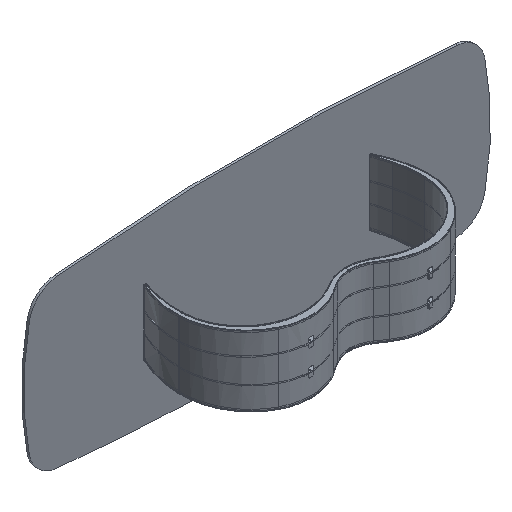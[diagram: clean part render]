
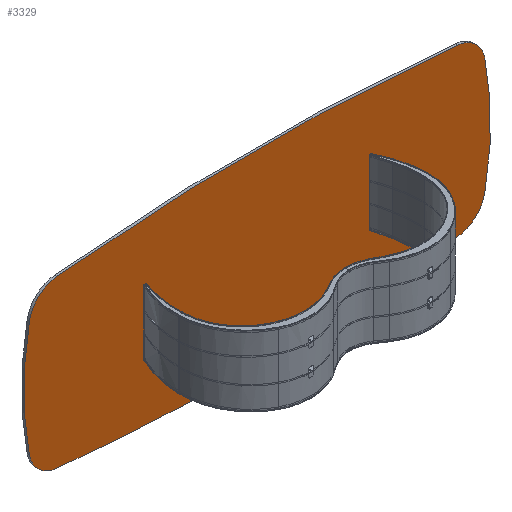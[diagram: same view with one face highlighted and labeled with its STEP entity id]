
A CAD part, isometric view. The second image highlights one B-rep face of the part: STEP entity #3329.
In plain terms, the highlighted planar face has unit normal (0, -1, 0).
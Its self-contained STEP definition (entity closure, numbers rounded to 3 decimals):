
#313 = VERTEX_POINT ( 'NONE', #14826 ) ;
#387 = ORIENTED_EDGE ( 'NONE', *, *, #23057, .F. ) ;
#782 = DIRECTION ( 'NONE',  ( 0., 0., 1. ) ) ;
#1771 = EDGE_CURVE ( 'NONE', #19056, #5844, #4198, .T. ) ;
#1838 = EDGE_CURVE ( 'NONE', #7235, #5844, #28350, .T. ) ;
#2232 = ORIENTED_EDGE ( 'NONE', *, *, #10682, .F. ) ;
#2295 = DIRECTION ( 'NONE',  ( 0., -1., 0. ) ) ;
#2339 = EDGE_CURVE ( 'NONE', #19484, #313, #16255, .T. ) ;
#2483 = CARTESIAN_POINT ( 'NONE',  ( -1287.344, 0., -533.533 ) ) ;
#2849 = CARTESIAN_POINT ( 'NONE',  ( 1462.835, 0., 373.961 ) ) ;
#3329 = ADVANCED_FACE ( 'NONE', ( #30664 ), #15064, .F. ) ;
#3707 = AXIS2_PLACEMENT_3D ( 'NONE', #28827, #2295, #10179 ) ;
#4198 = CIRCLE ( 'NONE', #3707, 200. ) ;
#5390 = DIRECTION ( 'NONE',  ( 0., 1., 0. ) ) ;
#5498 = DIRECTION ( 'NONE',  ( 0., 0., 1. ) ) ;
#5844 = VERTEX_POINT ( 'NONE', #11609 ) ;
#6213 = EDGE_LOOP ( 'NONE', ( #6529, #6349, #387, #15425, #9211, #2232, #17426, #9282, #28248 ) ) ;
#6349 = ORIENTED_EDGE ( 'NONE', *, *, #29351, .T. ) ;
#6406 = AXIS2_PLACEMENT_3D ( 'NONE', #19845, #32863, #28226 ) ;
#6529 = ORIENTED_EDGE ( 'NONE', *, *, #1838, .F. ) ;
#7184 = DIRECTION ( 'NONE',  ( 0., 0., 1. ) ) ;
#7235 = VERTEX_POINT ( 'NONE', #10040 ) ;
#7457 = DIRECTION ( 'NONE',  ( 0., 0., 1. ) ) ;
#7714 = EDGE_CURVE ( 'NONE', #28138, #11629, #24568, .T. ) ;
#8010 = EDGE_CURVE ( 'NONE', #19056, #313, #14182, .T. ) ;
#8403 = CARTESIAN_POINT ( 'NONE',  ( -400., 0., 0. ) ) ;
#8831 = DIRECTION ( 'NONE',  ( 0., -1., 0. ) ) ;
#9211 = ORIENTED_EDGE ( 'NONE', *, *, #22652, .F. ) ;
#9282 = ORIENTED_EDGE ( 'NONE', *, *, #8010, .F. ) ;
#9619 = DIRECTION ( 'NONE',  ( 0., -1., 0. ) ) ;
#9761 = CARTESIAN_POINT ( 'NONE',  ( -200., 0., 5950. ) ) ;
#10040 = CARTESIAN_POINT ( 'NONE',  ( -1287.344, 0., 533.533 ) ) ;
#10179 = DIRECTION ( 'NONE',  ( 0., 0., 1. ) ) ;
#10682 = EDGE_CURVE ( 'NONE', #19484, #13189, #31280, .T. ) ;
#11609 = CARTESIAN_POINT ( 'NONE',  ( 1287.344, 0., 533.533 ) ) ;
#11629 = VERTEX_POINT ( 'NONE', #2483 ) ;
#12293 = CIRCLE ( 'NONE', #28149, 1900. ) ;
#12639 = CARTESIAN_POINT ( 'NONE',  ( 0., 0., 11900. ) ) ;
#12672 = CARTESIAN_POINT ( 'NONE',  ( 1287.344, 0., -533.533 ) ) ;
#13189 = VERTEX_POINT ( 'NONE', #17314 ) ;
#13577 = AXIS2_PLACEMENT_3D ( 'NONE', #13581, #18551, #29341 ) ;
#13581 = CARTESIAN_POINT ( 'NONE',  ( 0., 0., -11900. ) ) ;
#13901 = CARTESIAN_POINT ( 'NONE',  ( -1462.835, 0., -373.961 ) ) ;
#14182 = CIRCLE ( 'NONE', #30600, 1900. ) ;
#14826 = CARTESIAN_POINT ( 'NONE',  ( 1462.835, 0., -373.961 ) ) ;
#15064 = PLANE ( 'NONE',  #25588 ) ;
#15425 = ORIENTED_EDGE ( 'NONE', *, *, #7714, .T. ) ;
#15652 = DIRECTION ( 'NONE',  ( 0., 0., 1. ) ) ;
#16255 = CIRCLE ( 'NONE', #31580, 200. ) ;
#16257 = CIRCLE ( 'NONE', #6406, 200. ) ;
#16919 = AXIS2_PLACEMENT_3D ( 'NONE', #32561, #9619, #33075 ) ;
#17314 = CARTESIAN_POINT ( 'NONE',  ( 0., 0., -600. ) ) ;
#17426 = ORIENTED_EDGE ( 'NONE', *, *, #2339, .T. ) ;
#18220 = CARTESIAN_POINT ( 'NONE',  ( 0., 0., 11900. ) ) ;
#18277 = DIRECTION ( 'NONE',  ( 0., 0., 1. ) ) ;
#18551 = DIRECTION ( 'NONE',  ( 0., 1., 0. ) ) ;
#19056 = VERTEX_POINT ( 'NONE', #2849 ) ;
#19484 = VERTEX_POINT ( 'NONE', #12672 ) ;
#19845 = CARTESIAN_POINT ( 'NONE',  ( -1266.747, 0., 334.597 ) ) ;
#20449 = CARTESIAN_POINT ( 'NONE',  ( -1462.835, 0., 373.961 ) ) ;
#20875 = AXIS2_PLACEMENT_3D ( 'NONE', #18220, #23865, #15652 ) ;
#21573 = AXIS2_PLACEMENT_3D ( 'NONE', #12639, #25823, #18277 ) ;
#22652 = EDGE_CURVE ( 'NONE', #13189, #11629, #24874, .T. ) ;
#22939 = DIRECTION ( 'NONE',  ( 0., 1., 0. ) ) ;
#23057 = EDGE_CURVE ( 'NONE', #28138, #30197, #12293, .T. ) ;
#23865 = DIRECTION ( 'NONE',  ( 0., 1., 0. ) ) ;
#24157 = DIRECTION ( 'NONE',  ( 0., 1., 0. ) ) ;
#24568 = CIRCLE ( 'NONE', #16919, 200. ) ;
#24874 = CIRCLE ( 'NONE', #21573, 12500. ) ;
#25588 = AXIS2_PLACEMENT_3D ( 'NONE', #9761, #22939, #7184 ) ;
#25823 = DIRECTION ( 'NONE',  ( 0., 1., 0. ) ) ;
#28138 = VERTEX_POINT ( 'NONE', #13901 ) ;
#28149 = AXIS2_PLACEMENT_3D ( 'NONE', #31432, #5390, #7457 ) ;
#28226 = DIRECTION ( 'NONE',  ( 0., 0., 1. ) ) ;
#28248 = ORIENTED_EDGE ( 'NONE', *, *, #1771, .T. ) ;
#28350 = CIRCLE ( 'NONE', #13577, 12500. ) ;
#28827 = CARTESIAN_POINT ( 'NONE',  ( 1266.747, 0., 334.597 ) ) ;
#29341 = DIRECTION ( 'NONE',  ( 0., 0., 1. ) ) ;
#29351 = EDGE_CURVE ( 'NONE', #7235, #30197, #16257, .T. ) ;
#30197 = VERTEX_POINT ( 'NONE', #20449 ) ;
#30600 = AXIS2_PLACEMENT_3D ( 'NONE', #8403, #24157, #5498 ) ;
#30664 = FACE_OUTER_BOUND ( 'NONE', #6213, .T. ) ;
#31280 = CIRCLE ( 'NONE', #20875, 12500. ) ;
#31432 = CARTESIAN_POINT ( 'NONE',  ( 400., 0., 0. ) ) ;
#31580 = AXIS2_PLACEMENT_3D ( 'NONE', #31791, #8831, #782 ) ;
#31791 = CARTESIAN_POINT ( 'NONE',  ( 1266.747, 0., -334.597 ) ) ;
#32561 = CARTESIAN_POINT ( 'NONE',  ( -1266.747, 0., -334.597 ) ) ;
#32863 = DIRECTION ( 'NONE',  ( 0., -1., 0. ) ) ;
#33075 = DIRECTION ( 'NONE',  ( 0., 0., 1. ) ) ;
